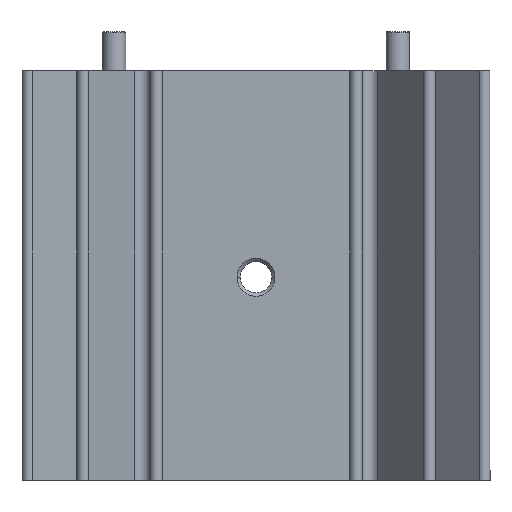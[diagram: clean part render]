
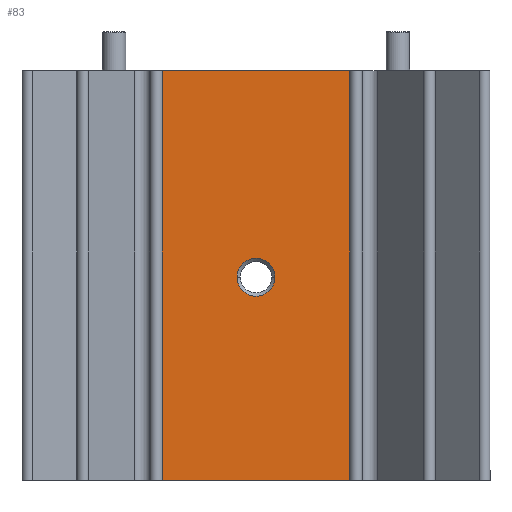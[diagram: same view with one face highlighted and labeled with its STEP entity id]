
A CAD part, front view. The second image highlights one B-rep face of the part: STEP entity #83.
In plain terms, the highlighted planar face has unit normal (0, -1, 0).
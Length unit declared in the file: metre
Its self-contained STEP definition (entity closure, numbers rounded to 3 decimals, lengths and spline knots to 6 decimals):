
#83=ADVANCED_FACE('0:8239',(#184,#185),#186,.T.);
#184=FACE_OUTER_BOUND('',#363,.T.);
#185=FACE_BOUND('',#364,.T.);
#186=PLANE('',#365);
#363=EDGE_LOOP('',(#592,#593,#594,#595));
#364=EDGE_LOOP('',(#596,#597));
#365=AXIS2_PLACEMENT_3D('',#598,#599,#600);
#592=ORIENTED_EDGE('',*,*,#1297,.T.);
#593=ORIENTED_EDGE('',*,*,#1298,.T.);
#594=ORIENTED_EDGE('',*,*,#1299,.F.);
#595=ORIENTED_EDGE('',*,*,#1300,.F.);
#596=ORIENTED_EDGE('',*,*,#1294,.F.);
#597=ORIENTED_EDGE('',*,*,#1295,.F.);
#598=CARTESIAN_POINT('',(0.,0.048246,0.01069));
#599=DIRECTION('',(0.0,-1.0,-0.0));
#600=DIRECTION('',(-1.0,0.0,0.));
#1294=EDGE_CURVE('10:1368',#1565,#1563,#1567,.T.);
#1295=EDGE_CURVE('10:1368',#1563,#1565,#1568,.T.);
#1297=EDGE_CURVE('0:8602',#1570,#1571,#1572,.T.);
#1298=EDGE_CURVE('0:16434',#1571,#1573,#1574,.F.);
#1299=EDGE_CURVE('0:8611',#1575,#1573,#1576,.T.);
#1300=EDGE_CURVE('0:8614',#1570,#1575,#1577,.T.);
#1563=VERTEX_POINT('',#1972);
#1565=VERTEX_POINT('',#1975);
#1567=CIRCLE('',#1978,0.0017);
#1568=CIRCLE('',#1979,0.0017);
#1570=VERTEX_POINT('',#1981);
#1571=VERTEX_POINT('',#1982);
#1572=LINE('',#1983,#1984);
#1573=VERTEX_POINT('',#1985);
#1574=LINE('',#1986,#1987);
#1575=VERTEX_POINT('',#1988);
#1576=LINE('',#1989,#1990);
#1577=LINE('',#1991,#1992);
#1972=CARTESIAN_POINT('',(-0.0017,0.048246,-0.00781));
#1975=CARTESIAN_POINT('',(0.0017,0.048246,-0.00781));
#1978=AXIS2_PLACEMENT_3D('',#2500,#2501,#2502);
#1979=AXIS2_PLACEMENT_3D('',#2503,#2504,#2505);
#1981=CARTESIAN_POINT('',(-0.008382,0.048246,0.01069));
#1982=CARTESIAN_POINT('',(-0.008382,0.048246,-0.026));
#1983=CARTESIAN_POINT('',(-0.008382,0.048246,0.01069));
#1984=VECTOR('',#2509,1.0);
#1985=CARTESIAN_POINT('',(0.008382,0.048246,-0.026));
#1986=CARTESIAN_POINT('',(-0.00447,0.048246,-0.026));
#1987=VECTOR('',#2510,1.0);
#1988=CARTESIAN_POINT('',(0.008382,0.048246,0.01069));
#1989=CARTESIAN_POINT('',(0.008382,0.048246,0.01069));
#1990=VECTOR('',#2511,1.0);
#1991=CARTESIAN_POINT('',(-0.008382,0.048246,0.01069));
#1992=VECTOR('',#2512,1.0);
#2500=CARTESIAN_POINT('',(0.,0.048246,-0.00781));
#2501=DIRECTION('',(0.0,-1.0,-0.0));
#2502=DIRECTION('',(-1.0,0.0,0.));
#2503=CARTESIAN_POINT('',(0.,0.048246,-0.00781));
#2504=DIRECTION('',(0.0,-1.0,-0.0));
#2505=DIRECTION('',(-1.0,0.0,0.));
#2509=DIRECTION('',(0.,0.0,-1.0));
#2510=DIRECTION('',(-1.0,0.0,0.));
#2511=DIRECTION('',(0.,0.0,-1.0));
#2512=DIRECTION('',(1.0,0.0,0.));
